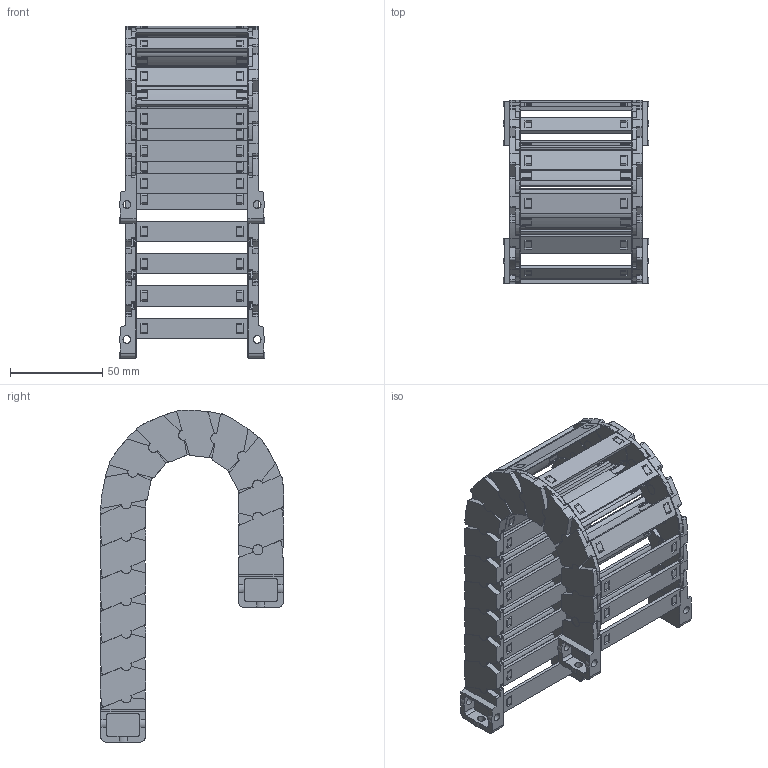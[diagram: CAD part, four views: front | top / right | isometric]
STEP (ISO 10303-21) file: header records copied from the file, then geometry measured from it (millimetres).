
FILE_DESCRIPTION((''),'2;1');
FILE_NAME('JY-18X60-R38_ASM','2022-05-06T08:41:28',('admin'),(''),'CREO PARAMETRIC BY PTC INC, 2021164','CREO PARAMETRIC BY PTC INC, 2021164','');
FILE_SCHEMA(('CONFIG_CONTROL_DESIGN','GEOMETRIC_VALIDATION_PROPERTIES_MIM'));
Length unit declared in the file: millimetre
Products named in the file (11): 18XL-L; 18XL-YP; 18XL-R; ASM0001_ASM; 18-LTT-A-L; 18-LTT-A-R; 18XL-LTT-A_ASM; 18-LTT-B-L; 18-LTT-B-R; 18XL-LTT-B_ASM; JY-18X60-R38_ASM
Assembly tree (28 placements, depth 3):
  JY-18X60-R38_ASM
    ASM0001_ASM  x14
      18XL-L
      18XL-YP
      18XL-R
    18XL-LTT-A_ASM
      18-LTT-A-L
      18XL-YP  x2
      18-LTT-A-R
    18XL-LTT-B_ASM
      18-LTT-B-L
      18XL-YP  x2
      18-LTT-B-R
Bounding box: 78.7 x 99.17 x 179.67 mm (x, y, z)
Volume: 129087.6 mm3; surface area: 124598 mm2
Topology: 64 solids, 64 shells, 4372 faces, 12387 edges, 8055 vertices
Faces by surface type: plane 2256, cylinder 1358, bspline 444, torus 268, cone 46
Entity records: 24048 total; most frequent: CARTESIAN_POINT 7279, ORIENTED_EDGE 3438, DIRECTION 3224, EDGE_CURVE 1719, VERTEX_POINT 1125, AXIS2_PLACEMENT_3D 1106, VECTOR 1012, LINE 1012
